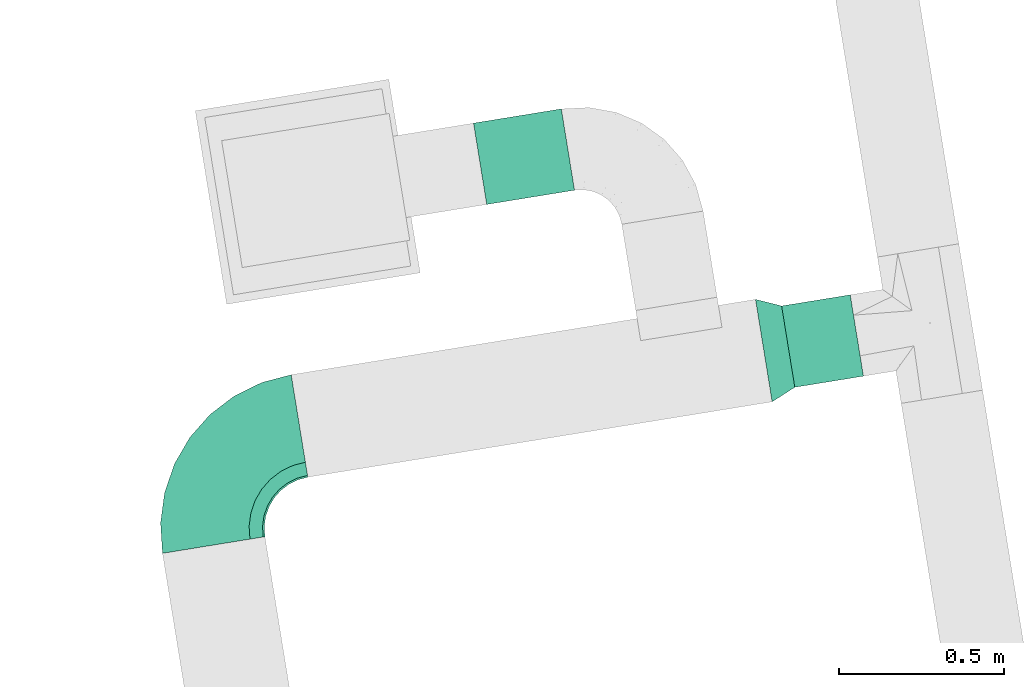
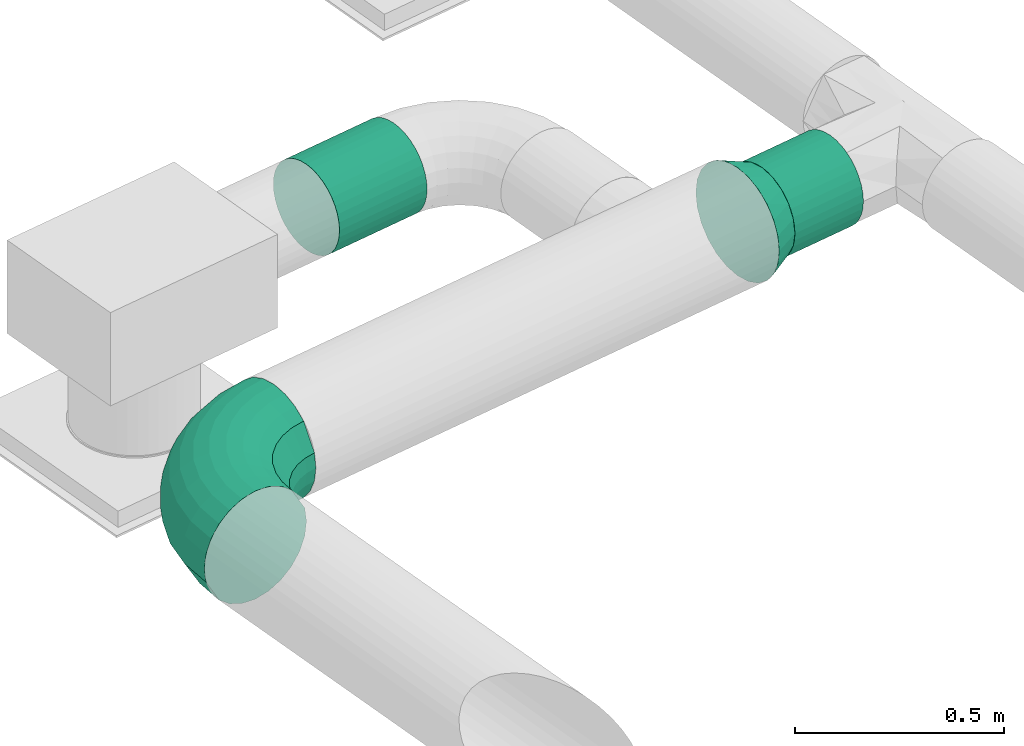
# One storey, part 26 of 39: 2 flow fittings, 2 flow segments.
"""IFC2X3 building model written with IfcOpenShell, lengths in millimetres."""

from ifc_helpers import new_model, entity, si_unit, converted_unit, derived_unit, direction, frame, frame_2d, origin, origin_with_axes, place, context, subcontext, project, spatial, circle, extrude, faceted_brep, source, transform, mapped, material, type_object, element, save


model = new_model("IFC2X3")

# Units and contexts
plan_context = context("Plan", 3, precision=1e-05, world=origin_with_axes())
model_context = context("Model", 3, precision=0.01, world=origin(), true_north=direction((6.12323399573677e-17, 1.0)))
body_context = subcontext(model_context, "Body", "Model", "MODEL_VIEW")
ifc_project = project(units=[converted_unit("PLANEANGLEUNIT", "DEGREE", entity("IfcPositiveLengthMeasure", 0.0174532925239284), si_unit("PLANEANGLEUNIT", "RADIAN"), dimensions=[0, 0, 0, 0, 0, 0, 0]), si_unit("AREAUNIT", "SQUARE_METRE"), si_unit("LENGTHUNIT", "METRE", prefix="MILLI"), si_unit("MASSUNIT", "GRAM", prefix="KILO"), si_unit("POWERUNIT", "WATT"), si_unit("PRESSUREUNIT", "PASCAL", prefix="KILO"), si_unit("FORCEUNIT", "NEWTON", prefix="KILO"), si_unit("ELECTRICVOLTAGEUNIT", "VOLT"), si_unit("ELECTRICCURRENTUNIT", "AMPERE"), si_unit("THERMODYNAMICTEMPERATUREUNIT", "DEGREE_CELSIUS"), si_unit("TIMEUNIT", "SECOND"), si_unit("VOLUMEUNIT", "CUBIC_METRE"), derived_unit("LINEARVELOCITYUNIT", [(si_unit("LENGTHUNIT", "METRE"), 1), (si_unit("TIMEUNIT", "SECOND"), -1)]), derived_unit("VOLUMETRICFLOWRATEUNIT", [(si_unit("VOLUMEUNIT", "CUBIC_METRE"), 1), (si_unit("TIMEUNIT", "SECOND"), -1)]), derived_unit("THERMALTRANSMITTANCEUNIT", [(si_unit("POWERUNIT", "WATT"), 1), (si_unit("THERMODYNAMICTEMPERATUREUNIT", "KELVIN"), -1), (si_unit("AREAUNIT", "SQUARE_METRE"), -1)]), derived_unit("SOUNDPRESSUREUNIT", [(si_unit("PRESSUREUNIT", "PASCAL"), 1)])], contexts=[model_context, plan_context])

# Site, building, storey
site_placement = place(None, frame((-0.00071070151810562, 0.00438415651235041, 0.0), z_axis=(0.0, 0.0, 1.0), x_axis=(-0.160236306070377, 0.987078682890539, 0.0)))
site = spatial("IfcSite", under=ifc_project, at=site_placement, Name="Default", CompositionType="ELEMENT")
building_placement = place(site_placement, origin_with_axes())
building = spatial("IfcBuilding", under=site, at=building_placement, CompositionType="ELEMENT")
storey_placement = place(building_placement, frame((0.0, 0.0, 58999.9999999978), z_axis=(0.0, 0.0, 1.0), x_axis=(1.0, 0.0, 0.0)))
storey = spatial("IfcBuildingStorey", under=building, at=storey_placement, Name="Nivå F", CompositionType="ELEMENT", Elevation=58999.9999999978)

# Flow fittings
ifc_material_1 = material(Name="<Unnamed>")
duct_fitting_type_1 = type_object("IfcDuctFittingType", Name="magicirc_elbow_full_radius_1:magicirc_elbow_full_radius_001", PredefinedType="NOTDEFINED", material=ifc_material_1)
shared_shape_1 = source(origin(), body_context, "Body", "Brep", [
    faceted_brep([(-222.819822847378, -148.421044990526, 0.0), (-223.866810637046, -143.157481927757, 40.7639996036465), (-315.0, -152.133317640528, 40.7639996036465), (-315.0, -157.5, 0.0), (-226.936423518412, -127.725495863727, 78.7499999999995), (-315.0, -136.399001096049, 78.7499999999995), (-231.819472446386, -103.176751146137, 111.369318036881), (-315.0, -111.369318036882, 111.369318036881), (-238.183185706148, -71.1842041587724, 136.399001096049), (-315.0, -78.7500000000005, 136.399001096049), (-245.593886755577, -33.9280941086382, 152.133317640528), (-315.0, -40.7639996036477, 152.133317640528), (-253.546548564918, 6.0526366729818, 157.5), (-315.0, 0.0, 157.5), (-261.499210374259, 46.033367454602, 152.133317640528), (-315.0, 40.7639996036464, 152.133317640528), (-268.909911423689, 83.2894775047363, 136.399001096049), (-315.0, 78.7499999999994, 136.399001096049), (-275.27362468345, 115.282024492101, 111.369318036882), (-315.0, 111.369318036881, 111.369318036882), (-283.226286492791, 155.262755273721, 40.7639996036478), (-315.0, 152.133317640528, 40.7639996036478), (-284.273274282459, 160.526318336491, 0.0), (-315.0, 157.5, 0.0), (-283.226286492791, 155.262755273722, -40.763999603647), (-315.0, 152.133317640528, -40.763999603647), (-280.156673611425, 139.830769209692, -78.7499999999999), (-315.0, 136.399001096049, -78.7499999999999), (-275.27362468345, 115.282024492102, -111.369318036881), (-315.0, 111.369318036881, -111.369318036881), (-268.909911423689, 83.289477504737, -136.399001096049), (-315.0, 78.7500000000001, -136.399001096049), (-261.499210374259, 46.0333674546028, -152.133317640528), (-315.0, 40.7639996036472, -152.133317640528), (-253.546548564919, 6.05263667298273, -157.5), (-315.0, 0.0, -157.5), (-245.593886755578, -33.9280941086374, -152.133317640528), (-315.0, -40.7639996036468, -152.133317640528), (-238.183185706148, -71.1842041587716, -136.399001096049), (-315.0, -78.7499999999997, -136.399001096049), (-231.819472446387, -103.176751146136, -111.369318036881), (-315.0, -111.369318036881, -111.369318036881), (-223.866810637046, -143.157481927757, -40.7639996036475), (-315.0, -152.133317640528, -40.7639996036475), (-134.182078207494, -121.533079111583, 0.0), (-136.235818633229, -116.574911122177, 40.7639996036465), (-142.25708089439, -102.03829810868, 78.7499999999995), (-151.835525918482, -78.91388622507, 111.369318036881), (-164.318398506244, -48.7775659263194, 136.399001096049), (-178.855011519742, -13.6830776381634, 152.133317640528), (-194.454718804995, 23.9779472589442, 157.5), (-210.054426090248, 61.638972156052, 152.133317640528), (-224.591039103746, 96.7334604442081, 136.399001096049), (-237.073911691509, 126.869780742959, 111.369318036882), (-252.673618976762, 164.530805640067, 40.7639996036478), (-254.727359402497, 169.488973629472, 0.0), (-252.673618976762, 164.530805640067, -40.763999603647), (-246.652356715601, 149.994192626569, -78.7499999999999), (-237.073911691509, 126.86978074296, -111.369318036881), (-224.591039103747, 96.7334604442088, -136.399001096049), (-210.054426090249, 61.6389721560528, -152.133317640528), (-194.454718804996, 23.9779472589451, -157.5), (-178.855011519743, -13.6830776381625, -152.133317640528), (-164.318398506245, -48.7775659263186, -136.399001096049), (-151.835525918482, -78.9138862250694, -111.369318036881), (-136.23581863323, -116.574911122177, -40.7639996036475), (-52.4930648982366, -77.8693918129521, 0.0), (-55.4746338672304, -73.4071585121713, 40.7639996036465), (-64.2161517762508, -60.3245524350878, 78.7499999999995), (-78.1218986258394, -39.5131315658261, 111.369318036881), (-96.24422074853, -12.3911598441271, 136.399001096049), (-117.348111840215, 19.1930451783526, 152.133317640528), (-139.995376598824, 53.087072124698, 157.5), (-162.642641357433, 86.9810990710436, 152.133317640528), (-183.746532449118, 118.565304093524, 136.399001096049), (-201.868854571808, 145.687275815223, 111.369318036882), (-224.516119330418, 179.581302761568, 40.7639996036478), (-227.497688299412, 184.043536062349, 0.0), (-224.516119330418, 179.581302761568, -40.763999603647), (-215.774601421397, 166.498696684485, -78.7499999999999), (-201.868854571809, 145.687275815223, -111.369318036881), (-183.746532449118, 118.565304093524, -136.399001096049), (-162.642641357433, 86.9810990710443, -152.133317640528), (-139.995376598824, 53.0870721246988, -157.5), (-117.348111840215, 19.1930451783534, -152.133317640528), (-96.2442207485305, -12.3911598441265, -136.399001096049), (-78.1218986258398, -39.5131315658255, -111.369318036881), (-55.4746338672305, -73.4071585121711, -40.7639996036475), (19.1079541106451, -19.107954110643, 0.0), (15.3131366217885, -15.3131366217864, 40.7639996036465), (4.18729469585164, -4.18729469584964, 78.7499999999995), (-13.5113639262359, 13.5113639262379, 111.369318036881), (-36.5767049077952, 36.5767049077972, 136.399001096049), (-63.4368633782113, 63.4368633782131, 152.133317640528), (-92.2613639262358, 92.2613639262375, 157.5), (-121.085864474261, 121.085864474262, 152.133317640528), (-147.946022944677, 147.946022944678, 136.399001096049), (-171.011363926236, 171.011363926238, 111.369318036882), (-199.835864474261, 199.835864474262, 40.7639996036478), (-203.630681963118, 203.630681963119, 0.0), (-199.835864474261, 199.835864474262, -40.763999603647), (-188.710022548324, 188.710022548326, -78.7499999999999), (-171.011363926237, 171.011363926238, -111.369318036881), (-147.946022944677, 147.946022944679, -136.399001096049), (-121.085864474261, 121.085864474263, -152.133317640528), (-92.2613639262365, 92.2613639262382, -157.5), (-63.436863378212, 63.4368633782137, -152.133317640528), (-36.5767049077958, 36.5767049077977, -136.399001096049), (-13.5113639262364, 13.5113639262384, -111.369318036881), (15.3131366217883, -15.3131366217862, -40.7639996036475), (77.8693918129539, 52.4930648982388, 0.0), (73.4071585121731, 55.4746338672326, 40.7639996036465), (60.3245524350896, 64.216151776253, 78.7499999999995), (39.5131315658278, 78.1218986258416, 111.369318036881), (12.3911598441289, 96.2442207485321, 136.399001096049), (-19.1930451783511, 117.348111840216, 152.133317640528), (-53.0870721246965, 139.995376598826, 157.5), (-86.9810990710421, 162.642641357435, 152.133317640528), (-118.565304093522, 183.746532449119, 136.399001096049), (-145.687275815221, 201.86885457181, 111.369318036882), (-179.581302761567, 224.516119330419, 40.7639996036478), (-184.043536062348, 227.497688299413, 0.0), (-179.581302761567, 224.516119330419, -40.763999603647), (-166.498696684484, 215.774601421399, -78.7499999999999), (-145.687275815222, 201.86885457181, -111.369318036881), (-118.565304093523, 183.74653244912, -136.399001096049), (-86.9810990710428, 162.642641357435, -152.133317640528), (-53.0870721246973, 139.995376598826, -157.5), (-19.1930451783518, 117.348111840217, -152.133317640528), (12.3911598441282, 96.2442207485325, -136.399001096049), (39.5131315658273, 78.1218986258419, -111.369318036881), (73.4071585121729, 55.4746338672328, -40.7639996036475), (121.533079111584, 134.182078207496, 0.0), (116.574911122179, 136.235818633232, 40.7639996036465), (102.038298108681, 142.257080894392, 78.7499999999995), (78.9138862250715, 151.835525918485, 111.369318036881), (48.7775659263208, 164.318398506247, 136.399001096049), (13.6830776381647, 178.855011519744, 152.133317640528), (-23.9779472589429, 194.454718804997, 157.5), (-61.6389721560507, 210.05442609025, 152.133317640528), (-96.7334604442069, 224.591039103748, 136.399001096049), (-126.869780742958, 237.07391169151, 111.369318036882), (-164.530805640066, 252.673618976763, 40.7639996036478), (-169.488973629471, 254.727359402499, 0.0), (-164.530805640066, 252.673618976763, -40.763999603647), (-149.994192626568, 246.652356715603, -78.7499999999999), (-126.869780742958, 237.07391169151, -111.369318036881), (-96.7334604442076, 224.591039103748, -136.399001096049), (-61.6389721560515, 210.05442609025, -152.133317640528), (-23.9779472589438, 194.454718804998, -157.5), (13.6830776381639, 178.855011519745, -152.133317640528), (48.7775659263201, 164.318398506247, -136.399001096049), (78.9138862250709, 151.835525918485, -111.369318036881), (116.574911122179, 136.235818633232, -40.7639996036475), (148.421044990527, 222.81982284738, 0.0), (143.157481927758, 223.866810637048, 40.7639996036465), (127.725495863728, 226.936423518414, 78.7499999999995), (103.176751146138, 231.819472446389, 111.369318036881), (71.1842041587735, 238.18318570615, 136.399001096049), (33.9280941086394, 245.59388675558, 152.133317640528), (-6.05263667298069, 253.54654856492, 157.5), (-46.0333674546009, 261.499210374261, 152.133317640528), (-83.2894775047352, 268.90991142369, 136.399001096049), (-115.2820244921, 275.273624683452, 111.369318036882), (-155.26275527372, 283.226286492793, 40.7639996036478), (-160.52631833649, 284.27327428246, 0.0), (-155.262755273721, 283.226286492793, -40.763999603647), (-139.83076920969, 280.156673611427, -78.7499999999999), (-115.282024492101, 275.273624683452, -111.369318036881), (-83.2894775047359, 268.90991142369, -136.399001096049), (-46.0333674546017, 261.499210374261, -152.133317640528), (-6.05263667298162, 253.54654856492, -157.5), (33.9280941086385, 245.59388675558, -152.133317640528), (71.1842041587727, 238.183185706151, -136.399001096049), (103.176751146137, 231.819472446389, -111.369318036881), (143.157481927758, 223.866810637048, -40.7639996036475), (157.500000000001, 315.0, 0.0), (152.133317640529, 315.0, 40.7639996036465), (136.39900109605, 315.0, 78.7499999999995), (111.369318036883, 315.0, 111.369318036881), (78.7500000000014, 315.0, 136.399001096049), (40.7639996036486, 315.0, 152.133317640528), (0.0, 315.0, 157.5), (-40.7639996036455, 315.0, 152.133317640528), (-78.7499999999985, 315.0, 136.399001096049), (-111.36931803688, 315.0, 111.369318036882), (-152.133317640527, 315.0, 40.7639996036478), (-157.499999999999, 315.0, 0.0), (-152.133317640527, 315.0, -40.763999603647), (-136.399001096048, 315.0, -78.7499999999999), (-111.36931803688, 315.0, -111.369318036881), (-78.7499999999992, 315.0, -136.399001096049), (-40.7639996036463, 315.0, -152.133317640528), (0.0, 315.0, -157.5), (40.7639996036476, 315.0, -152.133317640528), (78.7500000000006, 315.0, -136.399001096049), (111.369318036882, 315.0, -111.369318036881), (152.133317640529, 315.0, -40.7639996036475)], [[[0, 1, 2, 3]], [[1, 4, 5, 2]], [[4, 6, 7, 5]], [[6, 8, 9, 7]], [[8, 10, 11, 9]], [[10, 12, 13, 11]], [[12, 14, 15, 13]], [[14, 16, 17, 15]], [[16, 18, 19, 17]], [[18, 20, 21, 19]], [[20, 22, 23, 21]], [[22, 24, 25, 23]], [[24, 26, 27, 25]], [[26, 28, 29, 27]], [[28, 30, 31, 29]], [[30, 32, 33, 31]], [[32, 34, 35, 33]], [[34, 36, 37, 35]], [[36, 38, 39, 37]], [[38, 40, 41, 39]], [[40, 42, 43, 41]], [[42, 0, 3, 43]], [[44, 45, 1, 0]], [[45, 46, 4, 1]], [[46, 47, 6, 4]], [[47, 48, 8, 6]], [[48, 49, 10, 8]], [[49, 50, 12, 10]], [[50, 51, 14, 12]], [[51, 52, 16, 14]], [[52, 53, 18, 16]], [[53, 54, 20, 18]], [[54, 55, 22, 20]], [[55, 56, 24, 22]], [[56, 57, 26, 24]], [[57, 58, 28, 26]], [[58, 59, 30, 28]], [[59, 60, 32, 30]], [[60, 61, 34, 32]], [[61, 62, 36, 34]], [[62, 63, 38, 36]], [[63, 64, 40, 38]], [[64, 65, 42, 40]], [[65, 44, 0, 42]], [[66, 67, 45, 44]], [[67, 68, 46, 45]], [[68, 69, 47, 46]], [[69, 70, 48, 47]], [[70, 71, 49, 48]], [[71, 72, 50, 49]], [[72, 73, 51, 50]], [[73, 74, 52, 51]], [[74, 75, 53, 52]], [[75, 76, 54, 53]], [[76, 77, 55, 54]], [[77, 78, 56, 55]], [[78, 79, 57, 56]], [[79, 80, 58, 57]], [[80, 81, 59, 58]], [[81, 82, 60, 59]], [[82, 83, 61, 60]], [[83, 84, 62, 61]], [[84, 85, 63, 62]], [[85, 86, 64, 63]], [[86, 87, 65, 64]], [[87, 66, 44, 65]], [[88, 89, 67, 66]], [[89, 90, 68, 67]], [[90, 91, 69, 68]], [[91, 92, 70, 69]], [[92, 93, 71, 70]], [[93, 94, 72, 71]], [[94, 95, 73, 72]], [[95, 96, 74, 73]], [[96, 97, 75, 74]], [[97, 98, 76, 75]], [[98, 99, 77, 76]], [[99, 100, 78, 77]], [[100, 101, 79, 78]], [[101, 102, 80, 79]], [[102, 103, 81, 80]], [[103, 104, 82, 81]], [[104, 105, 83, 82]], [[105, 106, 84, 83]], [[106, 107, 85, 84]], [[107, 108, 86, 85]], [[108, 109, 87, 86]], [[109, 88, 66, 87]], [[110, 111, 89, 88]], [[111, 112, 90, 89]], [[112, 113, 91, 90]], [[113, 114, 92, 91]], [[114, 115, 93, 92]], [[115, 116, 94, 93]], [[116, 117, 95, 94]], [[117, 118, 96, 95]], [[118, 119, 97, 96]], [[119, 120, 98, 97]], [[120, 121, 99, 98]], [[121, 122, 100, 99]], [[122, 123, 101, 100]], [[123, 124, 102, 101]], [[124, 125, 103, 102]], [[125, 126, 104, 103]], [[126, 127, 105, 104]], [[127, 128, 106, 105]], [[128, 129, 107, 106]], [[129, 130, 108, 107]], [[130, 131, 109, 108]], [[131, 110, 88, 109]], [[132, 133, 111, 110]], [[133, 134, 112, 111]], [[134, 135, 113, 112]], [[135, 136, 114, 113]], [[136, 137, 115, 114]], [[137, 138, 116, 115]], [[138, 139, 117, 116]], [[139, 140, 118, 117]], [[140, 141, 119, 118]], [[141, 142, 120, 119]], [[142, 143, 121, 120]], [[143, 144, 122, 121]], [[144, 145, 123, 122]], [[145, 146, 124, 123]], [[146, 147, 125, 124]], [[147, 148, 126, 125]], [[148, 149, 127, 126]], [[149, 150, 128, 127]], [[150, 151, 129, 128]], [[151, 152, 130, 129]], [[152, 153, 131, 130]], [[153, 132, 110, 131]], [[154, 155, 133, 132]], [[155, 156, 134, 133]], [[156, 157, 135, 134]], [[157, 158, 136, 135]], [[158, 159, 137, 136]], [[159, 160, 138, 137]], [[160, 161, 139, 138]], [[161, 162, 140, 139]], [[162, 163, 141, 140]], [[163, 164, 142, 141]], [[164, 165, 143, 142]], [[165, 166, 144, 143]], [[166, 167, 145, 144]], [[167, 168, 146, 145]], [[168, 169, 147, 146]], [[169, 170, 148, 147]], [[170, 171, 149, 148]], [[171, 172, 150, 149]], [[172, 173, 151, 150]], [[173, 174, 152, 151]], [[174, 175, 153, 152]], [[175, 154, 132, 153]], [[176, 177, 155, 154]], [[177, 178, 156, 155]], [[178, 179, 157, 156]], [[179, 180, 158, 157]], [[180, 181, 159, 158]], [[181, 182, 160, 159]], [[182, 183, 161, 160]], [[183, 184, 162, 161]], [[184, 185, 163, 162]], [[185, 186, 164, 163]], [[186, 187, 165, 164]], [[187, 188, 166, 165]], [[188, 189, 167, 166]], [[189, 190, 168, 167]], [[190, 191, 169, 168]], [[191, 192, 170, 169]], [[192, 193, 171, 170]], [[193, 194, 172, 171]], [[194, 195, 173, 172]], [[195, 196, 174, 173]], [[196, 197, 175, 174]], [[197, 176, 154, 175]], [[3, 2, 5, 7, 9, 11, 13, 15, 17, 19, 21, 23, 25, 27, 29, 31, 33, 35, 37, 39, 41, 43]], [[197, 196, 195, 194, 193, 192, 191, 190, 189, 188, 187, 186, 185, 184, 183, 182, 181, 180, 179, 178, 177, 176]]]),
])
flow_fitting_1_placement = place(storey_placement, frame((783802.619644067, -505037.508615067, 3130.0), z_axis=(0.0, 0.0, 1.0), x_axis=(0.0, 1.0, 0.0)))
element("IfcFlowFitting", 1, at=flow_fitting_1_placement, inside=storey, type_object=duct_fitting_type_1, material=ifc_material_1, Name="magicirc_elbow_full_radius_1:magicirc_elbow_full_radius_001", ObjectType="magicirc_elbow_full_radius_1:magicirc_elbow_full_radius_001", context=body_context, shape_type="MappedRepresentation", body=[
    mapped(shared_shape_1, transform((0.0, 0.0, 0.0), scale=1.0)),
])
ifc_material_2 = material(Name="Material_Duct")
duct_fitting_type_2 = type_object("IfcDuctFittingType", Name="magicirc_reduction_001:magicirc_reduction_001", PredefinedType="NOTDEFINED", material=ifc_material_2)
shared_shape_2 = source(origin(), body_context, "Body", "Brep", [
    faceted_brep([(75.0, -125.0, 0.0), (75.0, -118.882064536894, -38.6271242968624), (75.0, -101.127124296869, -73.473156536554), (75.0, -73.4731565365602, -101.127124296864), (75.0, -38.627124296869, -118.882064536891), (75.0, 0.0, -125.0), (75.0, 38.6271242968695, -118.882064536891), (75.0, 73.4731565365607, -101.127124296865), (75.0, 101.12712429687, -73.4731565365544), (75.0, 118.882064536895, -38.6271242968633), (75.0, 125.0, 0.0), (75.0, 118.882064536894, 38.6271242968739), (75.0, 101.127124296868, 73.4731565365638), (75.0, 73.4731565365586, 101.127124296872), (75.0, 38.6271242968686, 118.882064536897), (75.0, 0.0, 125.0), (75.0, -38.6271242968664, 118.882064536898), (75.0, -73.4731565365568, 101.127124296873), (75.0, -101.127124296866, 73.4731565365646), (75.0, -118.882064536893, 38.6271242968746), (0.0, 157.499999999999, 0.0), (0.0, 152.133317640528, -40.7639996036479), (0.0, 136.399001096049, -78.7500000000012), (0.0, 111.369318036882, -111.369318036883), (0.0, 78.7500000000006, -136.399001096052), (0.0, 40.7639996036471, -152.133317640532), (0.0, 0.0, -157.500000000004), (0.0, -40.7639996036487, -152.133317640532), (0.0, -78.7500000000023, -136.399001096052), (0.0, -111.369318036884, -111.369318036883), (0.0, -136.399001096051, -78.7500000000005), (0.0, -152.133317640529, -40.7639996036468), (0.0, -157.500000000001, 0.0), (0.0, -152.133317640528, 40.7639996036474), (0.0, -136.399001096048, 78.7499999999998), (0.0, -111.36931803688, 111.36931803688), (0.0, -78.7499999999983, 136.399001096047), (0.0, -40.7639996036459, 152.133317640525), (0.0, 0.0, 157.499999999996), (0.0, 40.7639996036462, 152.133317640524), (0.0, 78.7499999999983, 136.399001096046), (0.0, 111.369318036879, 111.369318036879), (0.0, 136.399001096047, 78.7499999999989), (0.0, 152.133317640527, 40.7639996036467)], [[[0, 1, 2, 3, 4, 5, 6, 7, 8, 9, 10, 11, 12, 13, 14, 15, 16, 17, 18, 19]], [[20, 21, 22, 23, 24, 25, 26, 27, 28, 29, 30, 31, 32, 33, 34, 35, 36, 37, 38, 39, 40, 41, 42, 43]], [[22, 9, 8]], [[21, 10, 9]], [[24, 7, 6]], [[5, 25, 6]], [[8, 7, 23]], [[26, 25, 5]], [[9, 22, 21]], [[21, 20, 10]], [[8, 23, 22]], [[7, 24, 23]], [[24, 6, 25]], [[27, 5, 4]], [[3, 28, 4]], [[1, 0, 31]], [[2, 1, 30]], [[29, 3, 2]], [[28, 27, 4]], [[28, 3, 29]], [[2, 30, 29]], [[1, 31, 30]], [[32, 31, 0]], [[5, 27, 26]], [[34, 19, 18]], [[33, 0, 19]], [[36, 17, 16]], [[15, 37, 16]], [[18, 17, 35]], [[38, 37, 15]], [[19, 34, 33]], [[33, 32, 0]], [[18, 35, 34]], [[17, 36, 35]], [[36, 16, 37]], [[39, 15, 14]], [[13, 40, 14]], [[11, 10, 43]], [[12, 11, 42]], [[41, 13, 12]], [[40, 39, 14]], [[40, 13, 41]], [[12, 42, 41]], [[11, 43, 42]], [[20, 43, 10]], [[15, 39, 38]]]),
])
flow_fitting_2_placement = place(storey_placement, frame((783802.619644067, -506780.008615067, 3130.0), z_axis=(0.0, 0.0, 1.0), x_axis=(0.0, -1.0, 0.0)))
element("IfcFlowFitting", 2, at=flow_fitting_2_placement, inside=storey, type_object=duct_fitting_type_2, material=ifc_material_2, Name="magicirc_reduction_001:magicirc_reduction_001", ObjectType="magicirc_reduction_001:magicirc_reduction_001", context=body_context, shape_type="MappedRepresentation", body=[
    mapped(shared_shape_2, transform((0.0, 0.0, 0.0), scale=1.0)),
])

# Flow segments
duct_segment_type = type_object("IfcDuctSegmentType", Name="Round Duct:KK001T - Spiro kanaler, Forsinket stål", PredefinedType="NOTDEFINED")
flow_segment_1_placement = place(storey_placement, origin_with_axes())
element("IfcFlowSegment", 3, at=flow_segment_1_placement, inside=storey, type_object=duct_segment_type, Name="Round Duct:KK001T - Spiro kanaler, Forsinket stål", ObjectType="Round Duct:KK001T - Spiro kanaler, Forsinket stål", context=body_context, shape_type="SweptSolid", body=[
    extrude(circle(Radius=125.0, at=frame_2d((0.0, -8.66293703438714e-12), x_axis=(1.0, 0.0))), frame((784500.119644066, -506290.980498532, 3130.0), z_axis=(0.0, 1.0, 0.0), x_axis=(-1.0, 0.0, 0.0)), (0.0, 0.0, 1.0), 270.000000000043),
])
flow_segment_2_placement = place(storey_placement, origin_with_axes())
element("IfcFlowSegment", 4, at=flow_segment_2_placement, inside=storey, type_object=duct_segment_type, Name="Round Duct:KK001T - Spiro kanaler, Forsinket stål", ObjectType="Round Duct:KK001T - Spiro kanaler, Forsinket stål", context=body_context, shape_type="SweptSolid", body=[
    extrude(circle(Radius=125.0, at=frame_2d((0.0, -8.66293703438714e-12), x_axis=(1.0, 0.0))), frame((783802.619644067, -507065.980498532, 3130.0), z_axis=(0.0, 1.0, 0.0), x_axis=(-1.0, 0.0, 0.0)), (0.0, 0.0, 1.0), 210.971883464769),
])

save(model, "model.ifc")
